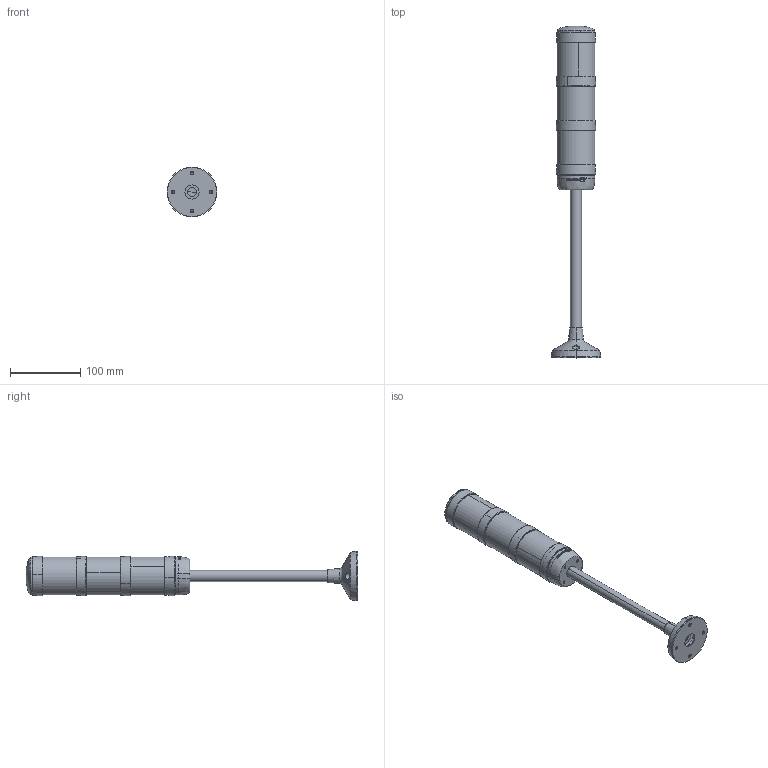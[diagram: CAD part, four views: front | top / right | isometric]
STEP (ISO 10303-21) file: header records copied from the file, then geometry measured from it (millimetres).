
FILE_DESCRIPTION (( 'STEP AP214' ), '1' );
FILE_NAME ('BR 50-3stufig-rot-gelb-grün+BR50-S250.STEP', '2011-12-23T10:45:53', ( ' ' ), ( ' ' ), 'SwSTEP 2.0', 'SolidWorks 2011', '' );
FILE_SCHEMA (( 'AUTOMOTIVE_DESIGN' ));
Length unit declared in the file: millimetre
Products named in the file (1): BR 50-3stufig-rot-gelb-gr黱+BR50-S250
Bounding box: 71 x 473.35 x 71 mm (x, y, z)
Surface area: 78644.5 mm2 (no closed solid volume)
Topology: 0 solids, 30 shells, 167 faces, 1024 edges, 881 vertices
Faces by surface type: cylinder 63, plane 38, bspline 38, cone 20, torus 8
Entity records: 13668 total; most frequent: CARTESIAN_POINT 5088, ORIENTED_EDGE 1317, DIRECTION 1135, EDGE_CURVE 1022, VERTEX_POINT 881, AXIS2_PLACEMENT_3D 427, CIRCLE 297, B_SPLINE_CURVE_WITH_KNOTS 291
